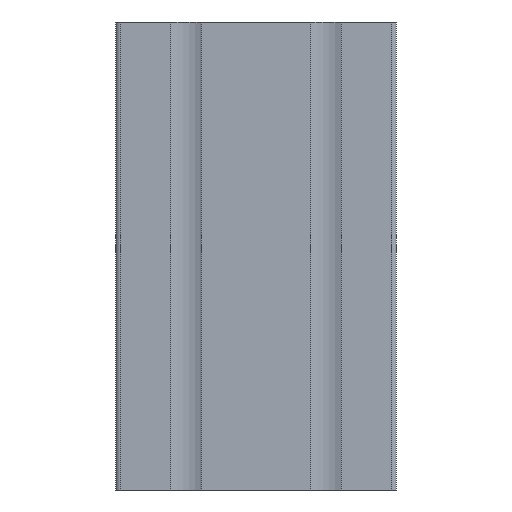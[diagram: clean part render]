
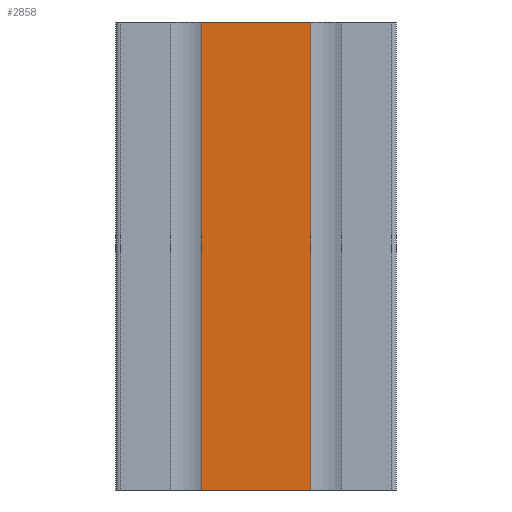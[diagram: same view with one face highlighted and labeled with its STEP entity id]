
A CAD part, front view. The second image highlights one B-rep face of the part: STEP entity #2858.
In plain terms, the highlighted planar face has unit normal (0, -1, 0).
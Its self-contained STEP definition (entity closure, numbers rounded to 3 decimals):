
#254 = CARTESIAN_POINT ( 'NONE',  ( 11.75, -30., 50. ) ) ;
#279 = LINE ( 'NONE', #3615, #3158 ) ;
#362 = CARTESIAN_POINT ( 'NONE',  ( -11.75, -30., -50. ) ) ;
#648 = ORIENTED_EDGE ( 'NONE', *, *, #711, .T. ) ;
#711 = EDGE_CURVE ( 'NONE', #1442, #4278, #3349, .T. ) ;
#842 = DIRECTION ( 'NONE',  ( 0., -1., 0. ) ) ;
#904 = DIRECTION ( 'NONE',  ( 1., 0., 0. ) ) ;
#980 = VERTEX_POINT ( 'NONE', #254 ) ;
#983 = DIRECTION ( 'NONE',  ( 0., 0., 1. ) ) ;
#1034 = DIRECTION ( 'NONE',  ( 1., 0., 0. ) ) ;
#1035 = LINE ( 'NONE', #2044, #4059 ) ;
#1055 = DIRECTION ( 'NONE',  ( 0., 0., 1. ) ) ;
#1335 = VECTOR ( 'NONE', #1034, 1000. ) ;
#1386 = CARTESIAN_POINT ( 'NONE',  ( -11.75, -30., -50. ) ) ;
#1442 = VERTEX_POINT ( 'NONE', #1386 ) ;
#1479 = ORIENTED_EDGE ( 'NONE', *, *, #2479, .F. ) ;
#1514 = DIRECTION ( 'NONE',  ( 0., 0., -1. ) ) ;
#1572 = ORIENTED_EDGE ( 'NONE', *, *, #2145, .F. ) ;
#1639 = ORIENTED_EDGE ( 'NONE', *, *, #1870, .T. ) ;
#1870 = EDGE_CURVE ( 'NONE', #4278, #980, #1035, .T. ) ;
#1928 = FACE_OUTER_BOUND ( 'NONE', #2147, .T. ) ;
#2044 = CARTESIAN_POINT ( 'NONE',  ( 11.75, -30., -50. ) ) ;
#2145 = EDGE_CURVE ( 'NONE', #1442, #3590, #279, .T. ) ;
#2147 = EDGE_LOOP ( 'NONE', ( #1479, #1572, #648, #1639 ) ) ;
#2169 = PLANE ( 'NONE',  #3616 ) ;
#2235 = LINE ( 'NONE', #4224, #3787 ) ;
#2479 = EDGE_CURVE ( 'NONE', #3590, #980, #2235, .T. ) ;
#2858 = ADVANCED_FACE ( 'NONE', ( #1928 ), #2169, .T. ) ;
#3158 = VECTOR ( 'NONE', #983, 1000. ) ;
#3239 = CARTESIAN_POINT ( 'NONE',  ( -11.75, -30., 50. ) ) ;
#3260 = CARTESIAN_POINT ( 'NONE',  ( -11.75, -30., -50. ) ) ;
#3349 = LINE ( 'NONE', #362, #1335 ) ;
#3590 = VERTEX_POINT ( 'NONE', #3239 ) ;
#3615 = CARTESIAN_POINT ( 'NONE',  ( -11.75, -30., -50. ) ) ;
#3616 = AXIS2_PLACEMENT_3D ( 'NONE', #3260, #842, #1514 ) ;
#3787 = VECTOR ( 'NONE', #904, 1000. ) ;
#3909 = CARTESIAN_POINT ( 'NONE',  ( 11.75, -30., -50. ) ) ;
#4059 = VECTOR ( 'NONE', #1055, 1000. ) ;
#4224 = CARTESIAN_POINT ( 'NONE',  ( -11.75, -30., 50. ) ) ;
#4278 = VERTEX_POINT ( 'NONE', #3909 ) ;
